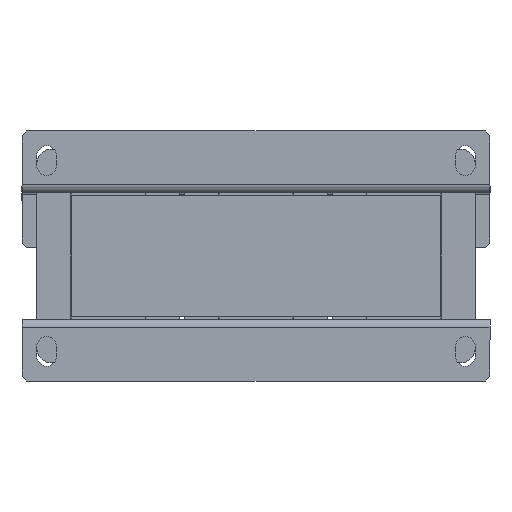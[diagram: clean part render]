
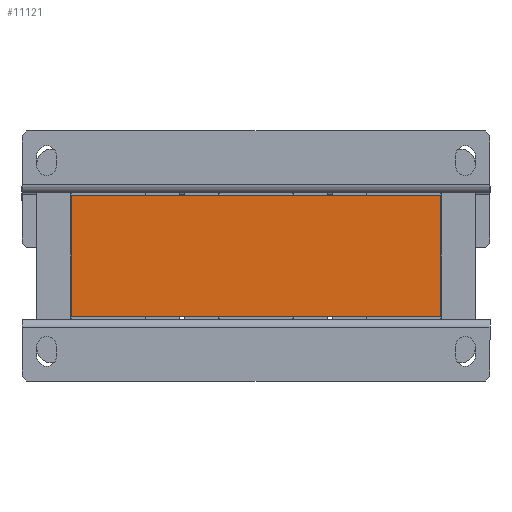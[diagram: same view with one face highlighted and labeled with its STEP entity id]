
A CAD part, front view. The second image highlights one B-rep face of the part: STEP entity #11121.
In plain terms, the highlighted planar face has unit normal (0, -1, 0).
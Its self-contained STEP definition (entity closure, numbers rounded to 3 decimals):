
#1530 = CARTESIAN_POINT ( 'NONE',  ( 75., -15., 49.5 ) ) ;
#1531 = DIRECTION ( 'NONE',  ( 0., 0., -1. ) ) ;
#2517 = CARTESIAN_POINT ( 'NONE',  ( -75., -15., 0. ) ) ;
#2518 = DIRECTION ( 'NONE',  ( 1., 0., 0. ) ) ;
#4682 = LINE ( 'NONE', #46698, #4684 ) ;
#4684 = VECTOR ( 'NONE', #46709, 1000. ) ;
#4927 = LINE ( 'NONE', #1530, #4928 ) ;
#4928 = VECTOR ( 'NONE', #1531, 1000. ) ;
#5427 = LINE ( 'NONE', #2517, #5430 ) ;
#5430 = VECTOR ( 'NONE', #2518, 1000. ) ;
#11121 = ADVANCED_FACE ( 'NONE', ( #16405 ), #20811, .F. ) ;
#15146 = EDGE_CURVE ( 'NONE', #42231, #42378, #48064, .T. ) ;
#15371 = EDGE_CURVE ( 'NONE', #42231, #41838, #4682, .T. ) ;
#15516 = EDGE_CURVE ( 'NONE', #41838, #42222, #4927, .T. ) ;
#15706 = EDGE_CURVE ( 'NONE', #42378, #42222, #5427, .T. ) ;
#16405 = FACE_OUTER_BOUND ( 'NONE', #20858, .T. ) ;
#20777 = DIRECTION ( 'NONE',  ( -1., 0., 0. ) ) ;
#20778 = DIRECTION ( 'NONE',  ( 0., 1., 0. ) ) ;
#20806 = CARTESIAN_POINT ( 'NONE',  ( -75., -15., 49.5 ) ) ;
#20811 = PLANE ( 'NONE',  #39592 ) ;
#20858 = EDGE_LOOP ( 'NONE', ( #44336, #44335, #44334, #44333 ) ) ;
#29715 = CARTESIAN_POINT ( 'NONE',  ( -75., -15., 0. ) ) ;
#31389 = CARTESIAN_POINT ( 'NONE',  ( 75., -15., 49.5 ) ) ;
#31775 = CARTESIAN_POINT ( 'NONE',  ( 75., -15., 0. ) ) ;
#31784 = CARTESIAN_POINT ( 'NONE',  ( -75., -15., 49.5 ) ) ;
#39592 = AXIS2_PLACEMENT_3D ( 'NONE', #20806, #20778, #20777 ) ;
#41838 = VERTEX_POINT ( 'NONE', #31389 ) ;
#42222 = VERTEX_POINT ( 'NONE', #31775 ) ;
#42231 = VERTEX_POINT ( 'NONE', #31784 ) ;
#42378 = VERTEX_POINT ( 'NONE', #29715 ) ;
#44333 = ORIENTED_EDGE ( 'NONE', *, *, #15146, .T. ) ;
#44334 = ORIENTED_EDGE ( 'NONE', *, *, #15371, .F. ) ;
#44335 = ORIENTED_EDGE ( 'NONE', *, *, #15516, .F. ) ;
#44336 = ORIENTED_EDGE ( 'NONE', *, *, #15706, .T. ) ;
#45344 = CARTESIAN_POINT ( 'NONE',  ( -75., -15., 49.5 ) ) ;
#45355 = DIRECTION ( 'NONE',  ( 0., 0., -1. ) ) ;
#46698 = CARTESIAN_POINT ( 'NONE',  ( -75., -15., 49.5 ) ) ;
#46709 = DIRECTION ( 'NONE',  ( 1., 0., 0. ) ) ;
#48064 = LINE ( 'NONE', #45344, #48069 ) ;
#48069 = VECTOR ( 'NONE', #45355, 1000. ) ;
